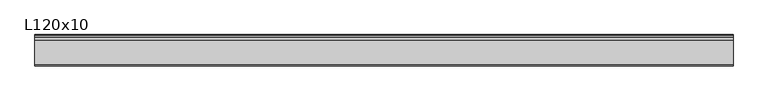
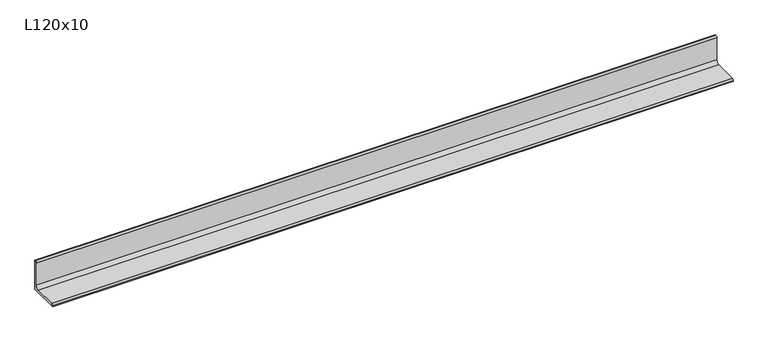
"""IFC4 building model written with IfcOpenShell, lengths in millimetres: beam geometry, L ali uguali : L120x10."""

from ifc_helpers import new_model, si_unit, point, frame, frame_2d, origin, place, context, project, spatial, polyline, circle_curve, trimmed, segment, composite_curve, outline, extrude, source, transform, mapped, element, save


def l120x10_26b6b7ca(model_context):
    return source(origin(), model_context, "Body", "SweptSolid", [
        extrude(outline(composite_curve([segment(polyline([(41.2, -41.2), (-108.8, -41.2), (-108.8, -37.2)]), True, "CONTINUOUS"), segment(trimmed(circle_curve(frame_2d((-100.8, -37.2)), 8.0), [point((-108.8, -37.2))], [point((-100.8, -29.2))], False, "CARTESIAN"), True, "CONTINUOUS"), segment(polyline([(-100.8, -29.2), (13.2, -29.2)]), True, "CONTINUOUS"), segment(trimmed(circle_curve(frame_2d((13.2, -13.2)), 16.0), [point((13.2, -29.2))], [point((29.2, -13.2))], True, "CARTESIAN"), True, "CONTINUOUS"), segment(polyline([(29.2, -13.2), (29.2, 100.8)]), True, "CONTINUOUS"), segment(trimmed(circle_curve(frame_2d((37.2, 100.8)), 8.0), [point((29.2, 100.8))], [point((37.2, 108.8))], False, "CARTESIAN"), True, "CONTINUOUS"), segment(polyline([(37.2, 108.8), (41.2, 108.8), (41.2, -41.2)]), True, "CONTINUOUS")], self_intersect=False)), frame((-1648.2, 0.0, 0.0), z_axis=(1.0, 0.0, 0.0), x_axis=(0.0, 1.0, 0.0)), (0.0, 0.0, 1.0), 3341.0),
    ])


if __name__ == "__main__":
    model = new_model("IFC4")
    model_context = context("Model", 3, world=origin())
    ifc_project = project(units=[si_unit("LENGTHUNIT", "METRE", prefix="MILLI")], contexts=[model_context])
    site = spatial("IfcSite", under=ifc_project)
    building = spatial("IfcBuilding", under=site)
    placement = place(None, origin())
    l120x10_shape = l120x10_26b6b7ca(model_context)
    element("IfcBeam", 1, ObjectType="L ali uguali : L120x10", at=placement, inside=building, context=model_context, shape_type="MappedRepresentation", body=[
        mapped(l120x10_shape, transform((0.0, 0.0, 0.0), x_axis=(1.0, 0.0, 0.0), y_axis=(0.0, 1.0, 0.0), z_axis=(0.0, 0.0, 1.0))),
    ])
    save(model, "model.ifc")
